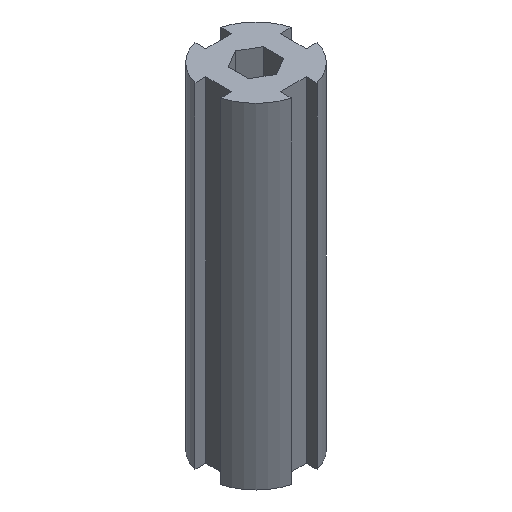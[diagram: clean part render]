
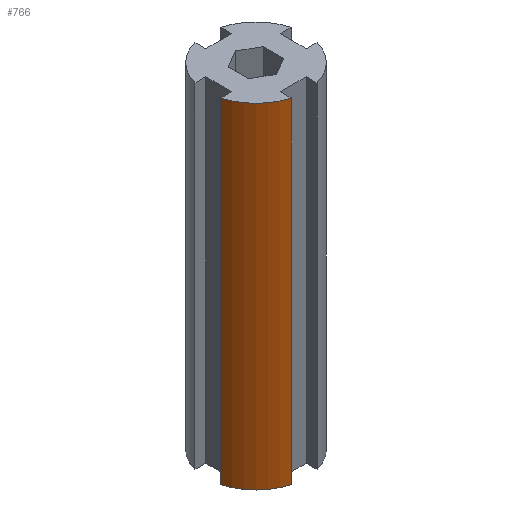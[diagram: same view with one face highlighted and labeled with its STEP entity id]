
A CAD part, isometric view. The second image highlights one B-rep face of the part: STEP entity #766.
In plain terms, the highlighted cylindrical face has radius 5.95 mm (diameter 11.9 mm), a partial arc.
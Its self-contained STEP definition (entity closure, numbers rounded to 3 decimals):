
#5 = CIRCLE ( 'NONE', #587, 5.95 ) ;
#15 = VECTOR ( 'NONE', #121, 1000. ) ;
#29 = CARTESIAN_POINT ( 'NONE',  ( 0., 0., 20. ) ) ;
#87 = DIRECTION ( 'NONE',  ( 1., 0., 0. ) ) ;
#100 = DIRECTION ( 'NONE',  ( 0., 0., 1. ) ) ;
#111 = EDGE_LOOP ( 'NONE', ( #229, #799, #793, #259 ) ) ;
#121 = DIRECTION ( 'NONE',  ( 0., 0., 1. ) ) ;
#152 = CARTESIAN_POINT ( 'NONE',  ( 0., 0., 20. ) ) ;
#168 = VERTEX_POINT ( 'NONE', #473 ) ;
#173 = VERTEX_POINT ( 'NONE', #788 ) ;
#176 = LINE ( 'NONE', #578, #802 ) ;
#229 = ORIENTED_EDGE ( 'NONE', *, *, #777, .F. ) ;
#230 = DIRECTION ( 'NONE',  ( 0., 0., -1. ) ) ;
#244 = DIRECTION ( 'NONE',  ( 0., 0., 1. ) ) ;
#251 = CARTESIAN_POINT ( 'NONE',  ( -1.55, -5.745, -20. ) ) ;
#259 = ORIENTED_EDGE ( 'NONE', *, *, #449, .T. ) ;
#286 = FACE_OUTER_BOUND ( 'NONE', #111, .T. ) ;
#323 = EDGE_CURVE ( 'NONE', #663, #442, #5, .T. ) ;
#383 = AXIS2_PLACEMENT_3D ( 'NONE', #29, #416, #609 ) ;
#416 = DIRECTION ( 'NONE',  ( 0., 0., 1. ) ) ;
#442 = VERTEX_POINT ( 'NONE', #251 ) ;
#449 = EDGE_CURVE ( 'NONE', #442, #168, #176, .T. ) ;
#471 = EDGE_CURVE ( 'NONE', #663, #173, #705, .T. ) ;
#473 = CARTESIAN_POINT ( 'NONE',  ( -1.55, -5.745, 20. ) ) ;
#510 = CARTESIAN_POINT ( 'NONE',  ( -5.745, -1.55, -20. ) ) ;
#578 = CARTESIAN_POINT ( 'NONE',  ( -1.55, -5.745, -20. ) ) ;
#587 = AXIS2_PLACEMENT_3D ( 'NONE', #806, #100, #87 ) ;
#609 = DIRECTION ( 'NONE',  ( 1., 0., 0. ) ) ;
#625 = CIRCLE ( 'NONE', #383, 5.95 ) ;
#649 = CARTESIAN_POINT ( 'NONE',  ( -5.745, -1.55, -20. ) ) ;
#654 = AXIS2_PLACEMENT_3D ( 'NONE', #152, #230, #804 ) ;
#663 = VERTEX_POINT ( 'NONE', #649 ) ;
#705 = LINE ( 'NONE', #510, #15 ) ;
#739 = CYLINDRICAL_SURFACE ( 'NONE', #654, 5.95 ) ;
#766 = ADVANCED_FACE ( 'NONE', ( #286 ), #739, .T. ) ;
#777 = EDGE_CURVE ( 'NONE', #173, #168, #625, .T. ) ;
#788 = CARTESIAN_POINT ( 'NONE',  ( -5.745, -1.55, 20. ) ) ;
#793 = ORIENTED_EDGE ( 'NONE', *, *, #323, .T. ) ;
#799 = ORIENTED_EDGE ( 'NONE', *, *, #471, .F. ) ;
#802 = VECTOR ( 'NONE', #244, 1000. ) ;
#804 = DIRECTION ( 'NONE',  ( -1., 0., 0. ) ) ;
#806 = CARTESIAN_POINT ( 'NONE',  ( 0., 0., -20. ) ) ;
